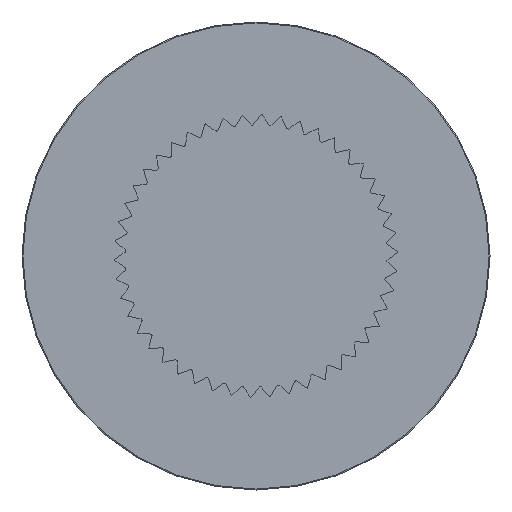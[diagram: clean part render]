
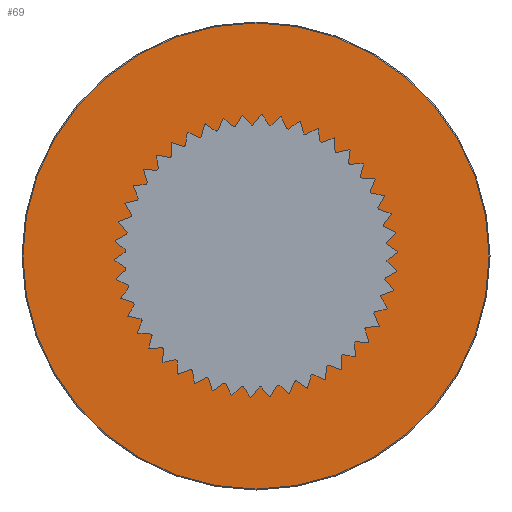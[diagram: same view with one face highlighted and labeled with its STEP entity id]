
A CAD part, front view. The second image highlights one B-rep face of the part: STEP entity #69.
In plain terms, the highlighted planar face has unit normal (0, -1, 0).
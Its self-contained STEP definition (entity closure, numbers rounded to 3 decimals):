
#69 = ADVANCED_FACE ( 'NONE', ( #7598 ), #6808, .F. ) ;
#126 = AXIS2_PLACEMENT_3D ( 'NONE', #8299, #1109, #7526 ) ;
#590 = VERTEX_POINT ( 'NONE', #3239 ) ;
#937 = VERTEX_POINT ( 'NONE', #1289 ) ;
#1044 = AXIS2_PLACEMENT_3D ( 'NONE', #7644, #3642, #8273 ) ;
#1109 = DIRECTION ( 'NONE',  ( 0., -1., 0. ) ) ;
#1289 = CARTESIAN_POINT ( 'NONE',  ( 0., 725., 498. ) ) ;
#1489 = CIRCLE ( 'NONE', #9205, 498. ) ;
#2888 = DIRECTION ( 'NONE',  ( 0., -1., 0. ) ) ;
#2937 = DIRECTION ( 'NONE',  ( 0., 0., 1. ) ) ;
#3024 = ORIENTED_EDGE ( 'NONE', *, *, #7241, .T. ) ;
#3239 = CARTESIAN_POINT ( 'NONE',  ( 0., 725., -498. ) ) ;
#3309 = CIRCLE ( 'NONE', #126, 498. ) ;
#3642 = DIRECTION ( 'NONE',  ( 0., 1., 0. ) ) ;
#6808 = PLANE ( 'NONE',  #1044 ) ;
#7241 = EDGE_CURVE ( 'NONE', #937, #590, #3309, .T. ) ;
#7526 = DIRECTION ( 'NONE',  ( 0., 0., 1. ) ) ;
#7598 = FACE_OUTER_BOUND ( 'NONE', #7619, .T. ) ;
#7619 = EDGE_LOOP ( 'NONE', ( #3024, #8902 ) ) ;
#7644 = CARTESIAN_POINT ( 'NONE',  ( 0., 725., 0. ) ) ;
#8273 = DIRECTION ( 'NONE',  ( 0., 0., 1. ) ) ;
#8299 = CARTESIAN_POINT ( 'NONE',  ( 0., 725., 0. ) ) ;
#8900 = EDGE_CURVE ( 'NONE', #590, #937, #1489, .T. ) ;
#8902 = ORIENTED_EDGE ( 'NONE', *, *, #8900, .T. ) ;
#9205 = AXIS2_PLACEMENT_3D ( 'NONE', #9418, #2888, #2937 ) ;
#9418 = CARTESIAN_POINT ( 'NONE',  ( 0., 725., 0. ) ) ;
